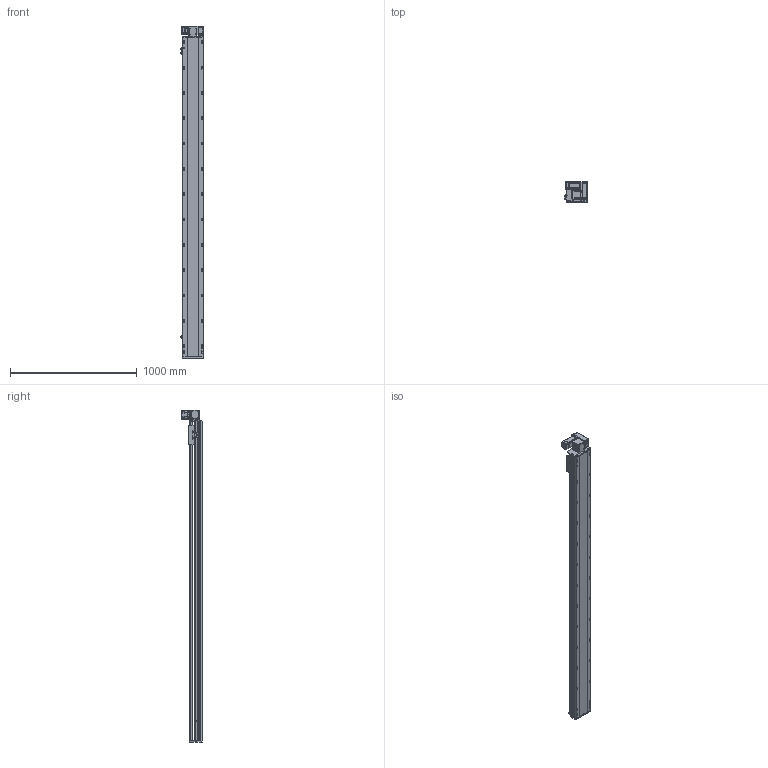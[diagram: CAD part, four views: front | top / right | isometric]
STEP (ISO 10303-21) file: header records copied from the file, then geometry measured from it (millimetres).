
FILE_DESCRIPTION (( 'STEP AP214' ), '1' );
FILE_NAME ('RTB17S-XX-2250-RW-M40-C4.STEP', '2025-12-11T09:11:20', ( '' ), ( '' ), 'SwSTEP 2.0', 'SolidWorks 2018', '' );
FILE_SCHEMA (( 'AUTOMOTIVE_DESIGN' ));
Length unit declared in the file: millimetre
Products named in the file (14): OMRON EE-SX672 传感器^RTB17S-XX-XX-RW-M40-C4; RTB17S-L-001耜醱啣^RTB17S-XX-XX-RW-M40-C4; RTB14-L-005P--轴承塑胶压盖^RTB17S-RW-皮带座装配-400W_RTB17S-XX-XX-RW-M40-C4; RTB14-L-008-M20--萇儂啣^RTB17S-RW-々湍釱蚾饜-400W_RTB17S-XX-XX-RW-M40-C4; RTB17-R-011菁釱^RTB17S-XX-XX-RW-M40-C4; RTB17S-XX-2250-RW-M40-C4; RTB14-L-018P^RTB17S-RW-々湍釱蚾饜-400W_RTB17S-XX-XX-RW-M40-C4; RMP17S-L-014-T20--々湍釱^RTB17S-RW-々湍釱蚾饜-400W_RTB17S-XX-XX-RW-M40-C4; 400W侜督萇儂^RTB17S-XX-XX-RW-M40-C4; RTB17S-L-004佪裝蹟譫蟀諉釱^RTB17S-XX-XX-RW-M40-C4; RTB17S-L-007奻裔^RTB17S-XX-XX-RW-M40-C4; RTH13-BL-012覜茼え俋离^RTB17S-XX-XX-RW-M40-C4; RTB17S-RW-々湍釱蚾饜-400W^RTB17S-XX-XX-RW-M40-C4; RTB14-L-017P^RTB17S-RW-々湍釱蚾饜-400W_RTB17S-XX-XX-RW-M40-C4
Assembly tree (16 placements, depth 3):
  RTB17S-XX-2250-RW-M40-C4
    RTB17-R-011菁釱^RTB17S-XX-XX-RW-M40-C4
    RTB17S-L-007奻裔^RTB17S-XX-XX-RW-M40-C4
    OMRON EE-SX672 传感器^RTB17S-XX-XX-RW-M40-C4  x3
    RTB17S-L-001耜醱啣^RTB17S-XX-XX-RW-M40-C4
    400W侜督萇儂^RTB17S-XX-XX-RW-M40-C4
    RTB17S-L-004佪裝蹟譫蟀諉釱^RTB17S-XX-XX-RW-M40-C4
    RTH13-BL-012覜茼え俋离^RTB17S-XX-XX-RW-M40-C4
    RTB17S-RW-々湍釱蚾饜-400W^RTB17S-XX-XX-RW-M40-C4
      RMP17S-L-014-T20--々湍釱^RTB17S-RW-々湍釱蚾饜-400W_RTB17S-XX-XX-RW-M40-C4
      RTB14-L-005P--轴承塑胶压盖^RTB17S-RW-皮带座装配-400W_RTB17S-XX-XX-RW-M40-C4
      RTB14-L-008-M20--萇儂啣^RTB17S-RW-々湍釱蚾饜-400W_RTB17S-XX-XX-RW-M40-C4
      RTB14-L-017P^RTB17S-RW-々湍釱蚾饜-400W_RTB17S-XX-XX-RW-M40-C4  x2
      RTB14-L-018P^RTB17S-RW-々湍釱蚾饜-400W_RTB17S-XX-XX-RW-M40-C4
Bounding box: 183.5 x 160.5 x 2622.5 mm (x, y, z)
Volume: 22562754.5 mm3; surface area: 2611477.7 mm2
Topology: 15 solids, 15 shells, 2317 faces, 6465 edges, 4221 vertices
Faces by surface type: plane 1082, cylinder 787, bspline 301, cone 139, torus 8
Entity records: 68009 total; most frequent: CARTESIAN_POINT 19270, ORIENTED_EDGE 9774, DIRECTION 9026, EDGE_CURVE 4887, VERTEX_POINT 3209, AXIS2_PLACEMENT_3D 3139, LINE 2748, VECTOR 2748
